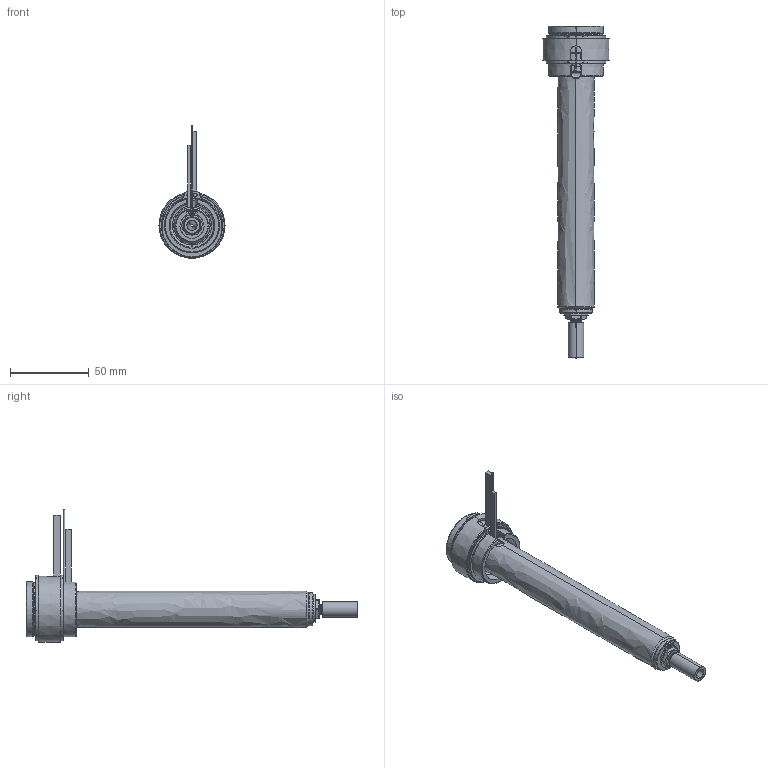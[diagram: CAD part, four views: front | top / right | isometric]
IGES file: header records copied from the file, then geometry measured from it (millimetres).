
Start section: SolidWorks IGES file using analytic representation for surfaces
Global section: file name: C:\Users\luca.EMPAD\Desktop\TEM\UGBE3504-S-A-P-5 [Ød-1.5 P-20 ØC-6.0].IGS; native system: SolidWorks 2012; preprocessor: SolidWorks 2012; author: luca; date: 120330.135741; units: millimetre
Bounding box: 42 x 211 x 84.4 mm (x, y, z)
Surface area: 36279.3 mm2 (no closed solid volume)
Topology: 0 solids, 0 shells, 189 faces, 3510 edges, 3510 vertices
Faces by surface type: revolution 120, bspline 69
